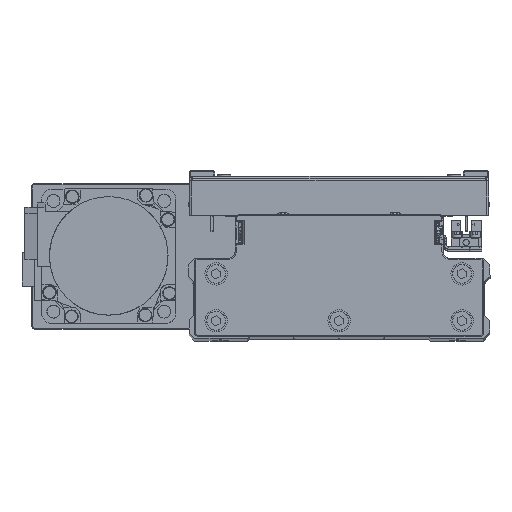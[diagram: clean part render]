
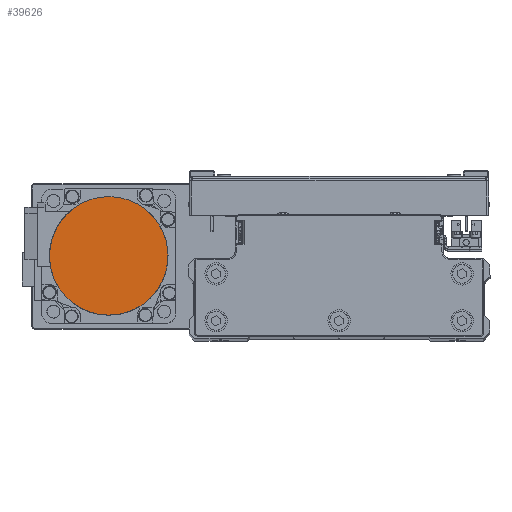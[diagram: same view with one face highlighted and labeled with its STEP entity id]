
A CAD part, top view. The second image highlights one B-rep face of the part: STEP entity #39626.
In plain terms, the highlighted planar face has unit normal (0, 0, 1) as drawn and (0, 0, -1) by its records, which use the part's own axes.
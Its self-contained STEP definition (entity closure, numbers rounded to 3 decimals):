
#56 = CARTESIAN_POINT ( 'NONE',  ( -26.5, 0., -109.7 ) ) ;
#1654 = CARTESIAN_POINT ( 'NONE',  ( 0., 0., -109.7 ) ) ;
#1778 = CARTESIAN_POINT ( 'NONE',  ( -26.329, -3.469, -109.7 ) ) ;
#1992 = CARTESIAN_POINT ( 'NONE',  ( -3.469, -26.329, -109.7 ) ) ;
#2194 = CARTESIAN_POINT ( 'NONE',  ( 23.819, -11.744, -109.7 ) ) ;
#2877 = CARTESIAN_POINT ( 'NONE',  ( 26.5, 0., -109.7 ) ) ;
#2912 = CARTESIAN_POINT ( 'NONE',  ( 25.147, 8.539, -109.7 ) ) ;
#3151 = CARTESIAN_POINT ( 'NONE',  ( -1.734, 26.5, -109.7 ) ) ;
#3372 = CARTESIAN_POINT ( 'NONE',  ( -25.652, 6.871, -109.7 ) ) ;
#4401 = EDGE_CURVE ( 'NONE', #18456, #43017, #21355, .T. ) ;
#5326 = CARTESIAN_POINT ( 'NONE',  ( -11.744, -23.819, -109.7 ) ) ;
#5537 = CARTESIAN_POINT ( 'NONE',  ( 19.965, -17.512, -109.7 ) ) ;
#6239 = CARTESIAN_POINT ( 'NONE',  ( 26.5, 1.734, -109.7 ) ) ;
#6459 = CARTESIAN_POINT ( 'NONE',  ( 6.871, 25.652, -109.7 ) ) ;
#6686 = CARTESIAN_POINT ( 'NONE',  ( -22.998, 13.28, -109.7 ) ) ;
#8620 = CARTESIAN_POINT ( 'NONE',  ( -17.512, -19.965, -109.7 ) ) ;
#8851 = CARTESIAN_POINT ( 'NONE',  ( 13.28, -22.998, -109.7 ) ) ;
#9003 = ORIENTED_EDGE ( 'NONE', *, *, #4401, .F. ) ;
#9776 = CARTESIAN_POINT ( 'NONE',  ( 13.28, 22.998, -109.7 ) ) ;
#9996 = CARTESIAN_POINT ( 'NONE',  ( -17.512, 19.965, -109.7 ) ) ;
#11940 = CARTESIAN_POINT ( 'NONE',  ( -22.998, -13.28, -109.7 ) ) ;
#12147 = CARTESIAN_POINT ( 'NONE',  ( 6.871, -25.652, -109.7 ) ) ;
#12373 = CARTESIAN_POINT ( 'NONE',  ( 26.5, -1.734, -109.7 ) ) ;
#13105 = CARTESIAN_POINT ( 'NONE',  ( 19.965, 17.512, -109.7 ) ) ;
#13324 = CARTESIAN_POINT ( 'NONE',  ( -11.744, 23.819, -109.7 ) ) ;
#15156 = DIRECTION ( 'NONE',  ( 0., 0., 1. ) ) ;
#15265 = CARTESIAN_POINT ( 'NONE',  ( -25.652, -6.871, -109.7 ) ) ;
#15479 = CARTESIAN_POINT ( 'NONE',  ( -1.734, -26.5, -109.7 ) ) ;
#15685 = CARTESIAN_POINT ( 'NONE',  ( 25.147, -8.539, -109.7 ) ) ;
#16411 = CARTESIAN_POINT ( 'NONE',  ( 23.819, 11.744, -109.7 ) ) ;
#16647 = CARTESIAN_POINT ( 'NONE',  ( -3.469, 26.329, -109.7 ) ) ;
#16862 = CARTESIAN_POINT ( 'NONE',  ( -26.329, 3.469, -109.7 ) ) ;
#18456 = VERTEX_POINT ( 'NONE', #30857 ) ;
#18466 = FACE_OUTER_BOUND ( 'NONE', #43392, .T. ) ;
#18580 = CARTESIAN_POINT ( 'NONE',  ( -26.5, 0., -109.7 ) ) ;
#18804 = CARTESIAN_POINT ( 'NONE',  ( -8.539, -25.147, -109.7 ) ) ;
#19018 = CARTESIAN_POINT ( 'NONE',  ( 21.07, -16.165, -109.7 ) ) ;
#19731 = CARTESIAN_POINT ( 'NONE',  ( 26.329, 3.469, -109.7 ) ) ;
#19949 = CARTESIAN_POINT ( 'NONE',  ( 3.469, 26.329, -109.7 ) ) ;
#20188 = CARTESIAN_POINT ( 'NONE',  ( -23.819, 11.744, -109.7 ) ) ;
#21355 = B_SPLINE_CURVE_WITH_KNOTS ( 'NONE', 3,
 ( #18580, #32059, #1778, #15265, #28745, #42232, #11940, #25418, #38912, #8620, #22110, #35607, #5326, #18804, #32282, #1992, #15479, #28951, #42442, #12147, #25628, #39131, #8851, #22340, #35832, #5537, #19018, #32483, #2194, #15685, #29163, #42661, #12373, #25855 ),
 .UNSPECIFIED., .F., .F.,
 ( 4, 2, 2, 2, 2, 2, 2, 2, 2, 2, 2, 2, 2, 2, 2, 2, 4 ),
 ( 0., 0.063, 0.125, 0.188, 0.25, 0.312, 0.375, 0.437, 0.5, 0.562, 0.625, 0.687, 0.75, 0.813, 0.875, 0.938, 1. ),
 .UNSPECIFIED. ) ;
#22110 = CARTESIAN_POINT ( 'NONE',  ( -16.165, -21.07, -109.7 ) ) ;
#22340 = CARTESIAN_POINT ( 'NONE',  ( 16.165, -21.07, -109.7 ) ) ;
#23257 = CARTESIAN_POINT ( 'NONE',  ( 11.744, 23.819, -109.7 ) ) ;
#23474 = CARTESIAN_POINT ( 'NONE',  ( -19.965, 17.512, -109.7 ) ) ;
#23940 = B_SPLINE_CURVE_WITH_KNOTS ( 'NONE', 3,
 ( #36536, #6239, #19731, #33212, #2912, #16411, #29893, #43387, #13105, #26571, #40080, #9776, #23257, #36756, #6459, #19949, #33430, #3151, #16647, #30131, #43609, #13324, #26790, #40295, #9996, #23474, #36975, #6686, #20188, #33671, #3372, #16862, #30345, #56 ),
 .UNSPECIFIED., .F., .F.,
 ( 4, 2, 2, 2, 2, 2, 2, 2, 2, 2, 2, 2, 2, 2, 2, 2, 4 ),
 ( 0., 0.062, 0.125, 0.187, 0.25, 0.312, 0.375, 0.437, 0.5, 0.562, 0.625, 0.687, 0.75, 0.813, 0.875, 0.938, 1. ),
 .UNSPECIFIED. ) ;
#24188 = EDGE_CURVE ( 'NONE', #43017, #18456, #23940, .T. ) ;
#24194 = AXIS2_PLACEMENT_3D ( 'NONE', #1654, #15156, #28631 ) ;
#25418 = CARTESIAN_POINT ( 'NONE',  ( -21.07, -16.165, -109.7 ) ) ;
#25628 = CARTESIAN_POINT ( 'NONE',  ( 8.539, -25.147, -109.7 ) ) ;
#25855 = CARTESIAN_POINT ( 'NONE',  ( 26.5, 0., -109.7 ) ) ;
#26571 = CARTESIAN_POINT ( 'NONE',  ( 17.512, 19.965, -109.7 ) ) ;
#26790 = CARTESIAN_POINT ( 'NONE',  ( -13.28, 22.998, -109.7 ) ) ;
#28631 = DIRECTION ( 'NONE',  ( 1., 0., 0. ) ) ;
#28745 = CARTESIAN_POINT ( 'NONE',  ( -25.147, -8.539, -109.7 ) ) ;
#28951 = CARTESIAN_POINT ( 'NONE',  ( 1.734, -26.5, -109.7 ) ) ;
#29163 = CARTESIAN_POINT ( 'NONE',  ( 25.652, -6.871, -109.7 ) ) ;
#29893 = CARTESIAN_POINT ( 'NONE',  ( 22.998, 13.28, -109.7 ) ) ;
#30131 = CARTESIAN_POINT ( 'NONE',  ( -6.871, 25.652, -109.7 ) ) ;
#30345 = CARTESIAN_POINT ( 'NONE',  ( -26.5, 1.734, -109.7 ) ) ;
#30481 = ORIENTED_EDGE ( 'NONE', *, *, #24188, .F. ) ;
#30857 = CARTESIAN_POINT ( 'NONE',  ( -26.5, 0., -109.7 ) ) ;
#31944 = PLANE ( 'NONE',  #24194 ) ;
#32059 = CARTESIAN_POINT ( 'NONE',  ( -26.5, -1.734, -109.7 ) ) ;
#32282 = CARTESIAN_POINT ( 'NONE',  ( -6.871, -25.652, -109.7 ) ) ;
#32483 = CARTESIAN_POINT ( 'NONE',  ( 22.998, -13.28, -109.7 ) ) ;
#33212 = CARTESIAN_POINT ( 'NONE',  ( 25.652, 6.871, -109.7 ) ) ;
#33430 = CARTESIAN_POINT ( 'NONE',  ( 1.734, 26.5, -109.7 ) ) ;
#33671 = CARTESIAN_POINT ( 'NONE',  ( -25.147, 8.539, -109.7 ) ) ;
#35607 = CARTESIAN_POINT ( 'NONE',  ( -13.28, -22.998, -109.7 ) ) ;
#35832 = CARTESIAN_POINT ( 'NONE',  ( 17.512, -19.965, -109.7 ) ) ;
#36536 = CARTESIAN_POINT ( 'NONE',  ( 26.5, 0., -109.7 ) ) ;
#36756 = CARTESIAN_POINT ( 'NONE',  ( 8.539, 25.147, -109.7 ) ) ;
#36975 = CARTESIAN_POINT ( 'NONE',  ( -21.07, 16.165, -109.7 ) ) ;
#38912 = CARTESIAN_POINT ( 'NONE',  ( -19.965, -17.512, -109.7 ) ) ;
#39131 = CARTESIAN_POINT ( 'NONE',  ( 11.744, -23.819, -109.7 ) ) ;
#39626 = ADVANCED_FACE ( 'NONE', ( #18466 ), #31944, .F. ) ;
#40080 = CARTESIAN_POINT ( 'NONE',  ( 16.165, 21.07, -109.7 ) ) ;
#40295 = CARTESIAN_POINT ( 'NONE',  ( -16.165, 21.07, -109.7 ) ) ;
#42232 = CARTESIAN_POINT ( 'NONE',  ( -23.819, -11.744, -109.7 ) ) ;
#42442 = CARTESIAN_POINT ( 'NONE',  ( 3.469, -26.329, -109.7 ) ) ;
#42661 = CARTESIAN_POINT ( 'NONE',  ( 26.329, -3.469, -109.7 ) ) ;
#43017 = VERTEX_POINT ( 'NONE', #2877 ) ;
#43387 = CARTESIAN_POINT ( 'NONE',  ( 21.07, 16.165, -109.7 ) ) ;
#43392 = EDGE_LOOP ( 'NONE', ( #30481, #9003 ) ) ;
#43609 = CARTESIAN_POINT ( 'NONE',  ( -8.539, 25.147, -109.7 ) ) ;
